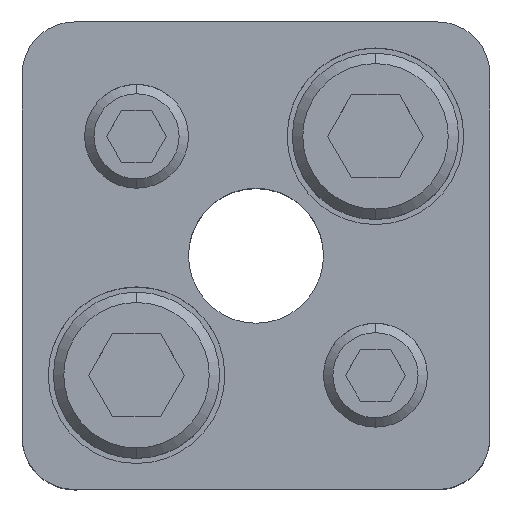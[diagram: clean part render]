
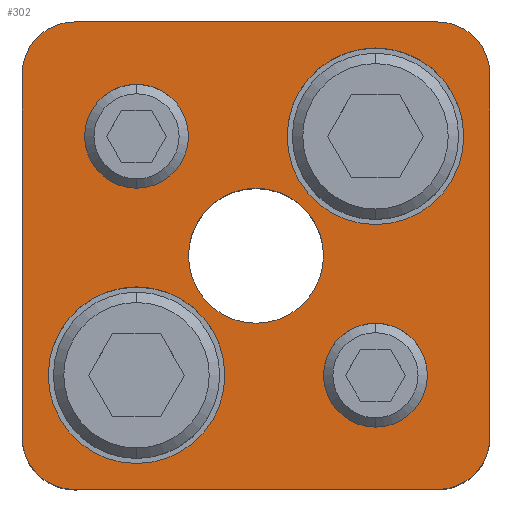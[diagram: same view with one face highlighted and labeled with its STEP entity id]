
A CAD part, top view. The second image highlights one B-rep face of the part: STEP entity #302.
In plain terms, the highlighted planar face has unit normal (0, 0, 1).
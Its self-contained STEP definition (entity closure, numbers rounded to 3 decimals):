
#161=PLANE('',#2460);
#224=FACE_BOUND('',#627,.T.);
#225=FACE_BOUND('',#628,.T.);
#226=FACE_BOUND('',#629,.T.);
#227=FACE_BOUND('',#630,.T.);
#228=FACE_BOUND('',#631,.T.);
#229=FACE_BOUND('',#632,.T.);
#302=ADVANCED_FACE('',(#224,#225,#226,#227,#228,#229),#161,.T.);
#627=EDGE_LOOP('',(#1277,#1278,#1279,#1280,#1281,#1282,#1283,#1284));
#628=EDGE_LOOP('',(#1285,#1286));
#629=EDGE_LOOP('',(#1287,#1288));
#630=EDGE_LOOP('',(#1289,#1290));
#631=EDGE_LOOP('',(#1291,#1292));
#632=EDGE_LOOP('',(#1293,#1294));
#779=LINE('',#3601,#949);
#780=LINE('',#3605,#950);
#781=LINE('',#3609,#951);
#782=LINE('',#3613,#952);
#949=VECTOR('',#2877,1.);
#950=VECTOR('',#2880,1.);
#951=VECTOR('',#2883,1.);
#952=VECTOR('',#2886,1.);
#1277=ORIENTED_EDGE('',*,*,#2005,.T.);
#1278=ORIENTED_EDGE('',*,*,#2006,.T.);
#1279=ORIENTED_EDGE('',*,*,#2007,.T.);
#1280=ORIENTED_EDGE('',*,*,#2008,.T.);
#1281=ORIENTED_EDGE('',*,*,#2009,.T.);
#1282=ORIENTED_EDGE('',*,*,#2010,.T.);
#1283=ORIENTED_EDGE('',*,*,#2011,.T.);
#1284=ORIENTED_EDGE('',*,*,#2012,.T.);
#1285=ORIENTED_EDGE('',*,*,#2013,.F.);
#1286=ORIENTED_EDGE('',*,*,#2014,.F.);
#1287=ORIENTED_EDGE('',*,*,#2015,.F.);
#1288=ORIENTED_EDGE('',*,*,#2016,.F.);
#1289=ORIENTED_EDGE('',*,*,#1991,.F.);
#1290=ORIENTED_EDGE('',*,*,#1987,.F.);
#1291=ORIENTED_EDGE('',*,*,#1985,.F.);
#1292=ORIENTED_EDGE('',*,*,#1981,.F.);
#1293=ORIENTED_EDGE('',*,*,#2017,.T.);
#1294=ORIENTED_EDGE('',*,*,#2018,.T.);
#1755=VERTEX_POINT('',#3549);
#1756=VERTEX_POINT('',#3550);
#1759=VERTEX_POINT('',#3562);
#1760=VERTEX_POINT('',#3563);
#1771=VERTEX_POINT('',#3599);
#1772=VERTEX_POINT('',#3600);
#1773=VERTEX_POINT('',#3602);
#1774=VERTEX_POINT('',#3604);
#1775=VERTEX_POINT('',#3606);
#1776=VERTEX_POINT('',#3608);
#1777=VERTEX_POINT('',#3610);
#1778=VERTEX_POINT('',#3612);
#1779=VERTEX_POINT('',#3615);
#1780=VERTEX_POINT('',#3616);
#1781=VERTEX_POINT('',#3619);
#1782=VERTEX_POINT('',#3620);
#1783=VERTEX_POINT('',#3623);
#1784=VERTEX_POINT('',#3624);
#1981=EDGE_CURVE('',#1755,#1756,#2255,.T.);
#1985=EDGE_CURVE('',#1756,#1755,#2257,.T.);
#1987=EDGE_CURVE('',#1759,#1760,#2259,.T.);
#1991=EDGE_CURVE('',#1760,#1759,#2261,.T.);
#2005=EDGE_CURVE('',#1771,#1772,#2271,.T.);
#2006=EDGE_CURVE('',#1772,#1773,#779,.T.);
#2007=EDGE_CURVE('',#1773,#1774,#2272,.T.);
#2008=EDGE_CURVE('',#1774,#1775,#780,.T.);
#2009=EDGE_CURVE('',#1775,#1776,#2273,.T.);
#2010=EDGE_CURVE('',#1776,#1777,#781,.T.);
#2011=EDGE_CURVE('',#1777,#1778,#2274,.T.);
#2012=EDGE_CURVE('',#1778,#1771,#782,.T.);
#2013=EDGE_CURVE('',#1779,#1780,#2275,.T.);
#2014=EDGE_CURVE('',#1780,#1779,#2276,.T.);
#2015=EDGE_CURVE('',#1781,#1782,#2277,.T.);
#2016=EDGE_CURVE('',#1782,#1781,#2278,.T.);
#2017=EDGE_CURVE('',#1783,#1784,#2279,.T.);
#2018=EDGE_CURVE('',#1784,#1783,#2280,.T.);
#2255=CIRCLE('',#2424,5.);
#2257=CIRCLE('',#2427,5.);
#2259=CIRCLE('',#2431,5.);
#2261=CIRCLE('',#2434,5.);
#2271=CIRCLE('',#2450,5.);
#2272=CIRCLE('',#2451,5.);
#2273=CIRCLE('',#2452,5.);
#2274=CIRCLE('',#2453,5.);
#2275=CIRCLE('',#2454,8.5);
#2276=CIRCLE('',#2455,8.5);
#2277=CIRCLE('',#2456,8.5);
#2278=CIRCLE('',#2457,8.5);
#2279=CIRCLE('',#2458,6.5);
#2280=CIRCLE('',#2459,6.5);
#2424=AXIS2_PLACEMENT_3D('',#3548,#2815,#2816);
#2427=AXIS2_PLACEMENT_3D('',#3557,#2823,#2824);
#2431=AXIS2_PLACEMENT_3D('',#3561,#2831,#2832);
#2434=AXIS2_PLACEMENT_3D('',#3570,#2839,#2840);
#2450=AXIS2_PLACEMENT_3D('',#3598,#2875,#2876);
#2451=AXIS2_PLACEMENT_3D('',#3603,#2878,#2879);
#2452=AXIS2_PLACEMENT_3D('',#3607,#2881,#2882);
#2453=AXIS2_PLACEMENT_3D('',#3611,#2884,#2885);
#2454=AXIS2_PLACEMENT_3D('',#3614,#2887,#2888);
#2455=AXIS2_PLACEMENT_3D('',#3617,#2889,#2890);
#2456=AXIS2_PLACEMENT_3D('',#3618,#2891,#2892);
#2457=AXIS2_PLACEMENT_3D('',#3621,#2893,#2894);
#2458=AXIS2_PLACEMENT_3D('',#3622,#2895,#2896);
#2459=AXIS2_PLACEMENT_3D('',#3625,#2897,#2898);
#2460=AXIS2_PLACEMENT_3D('',#3626,#2899,#2900);
#2815=DIRECTION('',(0.,0.,1.));
#2816=DIRECTION('',(-1.,0.,0.));
#2823=DIRECTION('',(0.,0.,1.));
#2824=DIRECTION('',(1.,0.,0.));
#2831=DIRECTION('',(0.,0.,1.));
#2832=DIRECTION('',(-1.,0.,0.));
#2839=DIRECTION('',(0.,0.,1.));
#2840=DIRECTION('',(1.,0.,0.));
#2875=DIRECTION('',(0.,0.,1.));
#2876=DIRECTION('',(-0.707,0.707,0.));
#2877=DIRECTION('',(0.,1.,0.));
#2878=DIRECTION('',(0.,0.,1.));
#2879=DIRECTION('',(-0.707,-0.707,0.));
#2880=DIRECTION('',(-1.,0.,0.));
#2881=DIRECTION('',(0.,0.,1.));
#2882=DIRECTION('',(0.707,-0.707,0.));
#2883=DIRECTION('',(0.,-1.,0.));
#2884=DIRECTION('',(0.,0.,1.));
#2885=DIRECTION('',(0.707,0.707,0.));
#2886=DIRECTION('',(1.,0.,0.));
#2887=DIRECTION('',(0.,0.,1.));
#2888=DIRECTION('',(1.,0.,0.));
#2889=DIRECTION('',(0.,0.,1.));
#2890=DIRECTION('',(-1.,0.,0.));
#2891=DIRECTION('',(0.,0.,1.));
#2892=DIRECTION('',(1.,0.,0.));
#2893=DIRECTION('',(0.,0.,1.));
#2894=DIRECTION('',(-1.,0.,0.));
#2895=DIRECTION('',(0.,0.,-1.));
#2896=DIRECTION('',(-1.,0.,0.));
#2897=DIRECTION('',(0.,0.,-1.));
#2898=DIRECTION('',(1.,0.,0.));
#2899=DIRECTION('',(0.,0.,1.));
#2900=DIRECTION('',(-1.,0.,0.));
#3548=CARTESIAN_POINT('',(11.5,-11.5,30.));
#3549=CARTESIAN_POINT('',(11.5,-16.5,30.));
#3550=CARTESIAN_POINT('',(11.5,-6.5,30.));
#3557=CARTESIAN_POINT('',(11.5,-11.5,30.));
#3561=CARTESIAN_POINT('',(-11.5,11.5,30.));
#3562=CARTESIAN_POINT('',(-11.5,6.5,30.));
#3563=CARTESIAN_POINT('',(-11.5,16.5,30.));
#3570=CARTESIAN_POINT('',(-11.5,11.5,30.));
#3598=CARTESIAN_POINT('',(17.5,-17.5,30.));
#3599=CARTESIAN_POINT('',(17.5,-22.5,30.));
#3600=CARTESIAN_POINT('',(22.5,-17.5,30.));
#3601=CARTESIAN_POINT('',(22.5,17.5,30.));
#3602=CARTESIAN_POINT('',(22.5,17.5,30.));
#3603=CARTESIAN_POINT('',(17.5,17.5,30.));
#3604=CARTESIAN_POINT('',(17.5,22.5,30.));
#3605=CARTESIAN_POINT('',(-17.5,22.5,30.));
#3606=CARTESIAN_POINT('',(-17.5,22.5,30.));
#3607=CARTESIAN_POINT('',(-17.5,17.5,30.));
#3608=CARTESIAN_POINT('',(-22.5,17.5,30.));
#3609=CARTESIAN_POINT('',(-22.5,17.5,30.));
#3610=CARTESIAN_POINT('',(-22.5,-17.5,30.));
#3611=CARTESIAN_POINT('',(-17.5,-17.5,30.));
#3612=CARTESIAN_POINT('',(-17.5,-22.5,30.));
#3613=CARTESIAN_POINT('',(-17.5,-22.5,30.));
#3614=CARTESIAN_POINT('',(11.5,11.5,30.));
#3615=CARTESIAN_POINT('',(11.5,20.,30.));
#3616=CARTESIAN_POINT('',(11.5,3.,30.));
#3617=CARTESIAN_POINT('',(11.5,11.5,30.));
#3618=CARTESIAN_POINT('',(-11.5,-11.5,30.));
#3619=CARTESIAN_POINT('',(-11.5,-3.,30.));
#3620=CARTESIAN_POINT('',(-11.5,-20.,30.));
#3621=CARTESIAN_POINT('',(-11.5,-11.5,30.));
#3622=CARTESIAN_POINT('',(0.,0.,30.));
#3623=CARTESIAN_POINT('',(0.,6.5,30.));
#3624=CARTESIAN_POINT('',(0.,-6.5,30.));
#3625=CARTESIAN_POINT('',(0.,0.,30.));
#3626=CARTESIAN_POINT('',(17.5,-22.5,30.));
